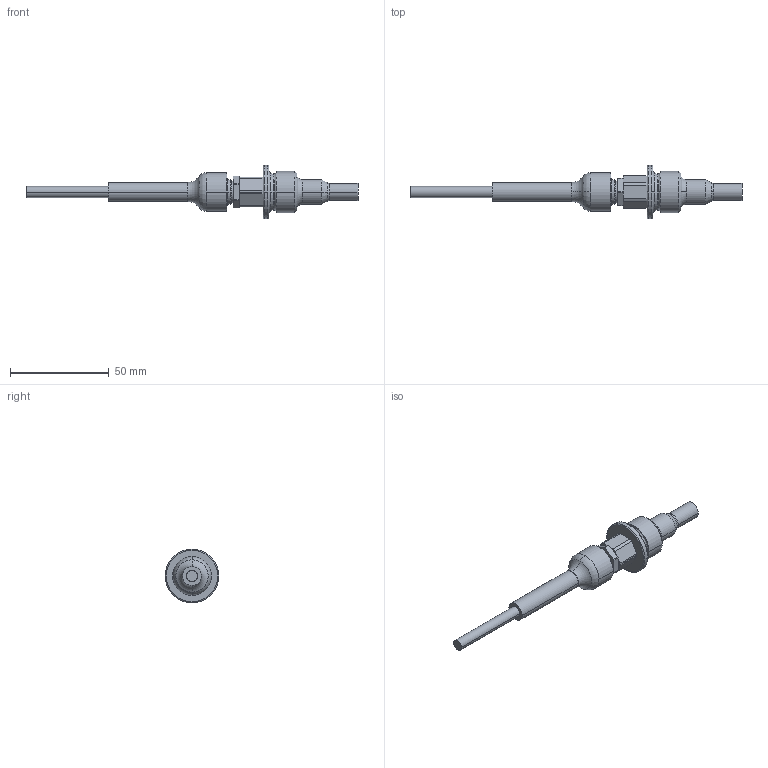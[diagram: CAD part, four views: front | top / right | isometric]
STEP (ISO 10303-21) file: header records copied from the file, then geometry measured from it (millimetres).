
FILE_DESCRIPTION( ( '' ), '1' );
FILE_NAME( '//expscmdclustefs.cadenas.external/client_exchange/iodir/jobs/output/wkb39663456_no0/STEP/sf323a_2_03_56fa68aab0d912ba39a93ed9979b71de.stp', '2011-12-01T09:32:02', ( '' ), ( '' ), ' ', ' ', ' ' );
FILE_SCHEMA( ( 'CONFIG_CONTROL_DESIGN' ) );
Length unit declared in the file: millimetre
Products named in the file (1): 1
Bounding box: 167.8 x 27 x 27 mm (x, y, z)
Volume: 19773.4 mm3; surface area: 10024 mm2
Topology: 1 solids, 1 shells, 118 faces, 289 edges, 185 vertices
Faces by surface type: cylinder 40, plane 38, torus 32, cone 8
Entity records: 3594 total; most frequent: DIRECTION 708, CARTESIAN_POINT 593, ORIENTED_EDGE 578, AXIS2_PLACEMENT_3D 300, EDGE_CURVE 289, VERTEX_POINT 185, CIRCLE 181, EDGE_LOOP 130
